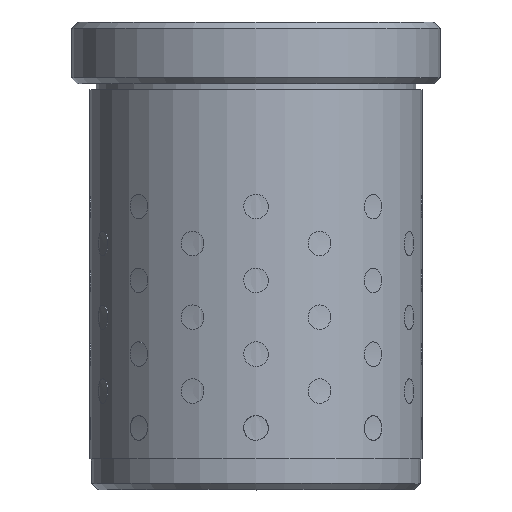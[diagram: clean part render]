
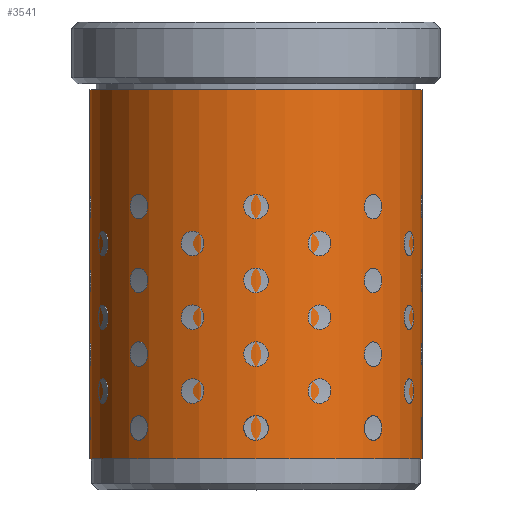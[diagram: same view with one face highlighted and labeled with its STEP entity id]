
A CAD part, top view. The second image highlights one B-rep face of the part: STEP entity #3541.
In plain terms, the highlighted cylindrical face has radius 27 mm (diameter 54 mm), a full revolution.
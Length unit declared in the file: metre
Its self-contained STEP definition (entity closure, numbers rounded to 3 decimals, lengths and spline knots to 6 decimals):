
#3541 = ADVANCED_FACE( '', ( #3790, #3791 ), #3792, .T. );
#3790 = FACE_OUTER_BOUND( '', #4339, .T. );
#3791 = FACE_OUTER_BOUND( '', #4340, .T. );
#3792 = CYLINDRICAL_SURFACE( '', #4341, 0.027 );
#4339 = EDGE_LOOP( '', ( #4904 ) );
#4340 = EDGE_LOOP( '', ( #4905 ) );
#4341 = AXIS2_PLACEMENT_3D( '', #4906, #4907, #4908 );
#4904 = ORIENTED_EDGE( '', *, *, #5884, .T. );
#4905 = ORIENTED_EDGE( '', *, *, #5883, .F. );
#4906 = CARTESIAN_POINT( '', ( 0., 0., 0. ) );
#4907 = DIRECTION( '', ( 0., 1., 0. ) );
#4908 = DIRECTION( '', ( 0., 0., -1. ) );
#5883 = EDGE_CURVE( '', #6050, #6050, #6051, .T. );
#5884 = EDGE_CURVE( '', #6052, #6052, #6053, .T. );
#6050 = VERTEX_POINT( '', #6368 );
#6051 = CIRCLE( '', #6369, 0.027 );
#6052 = VERTEX_POINT( '', #6370 );
#6053 = CIRCLE( '', #6371, 0.027 );
#6368 = CARTESIAN_POINT( '', ( 0., 0.005, -0.027 ) );
#6369 = AXIS2_PLACEMENT_3D( '', #14470, #14471, #14472 );
#6370 = CARTESIAN_POINT( '', ( 0., 0.065, -0.027 ) );
#6371 = AXIS2_PLACEMENT_3D( '', #14473, #14474, #14475 );
#14470 = CARTESIAN_POINT( '', ( 0., 0.005, 0. ) );
#14471 = DIRECTION( '', ( 0., -1., 0. ) );
#14472 = DIRECTION( '', ( 0., 0., -1. ) );
#14473 = CARTESIAN_POINT( '', ( 0., 0.065, 0. ) );
#14474 = DIRECTION( '', ( 0., -1., 0. ) );
#14475 = DIRECTION( '', ( 0., 0., -1. ) );
